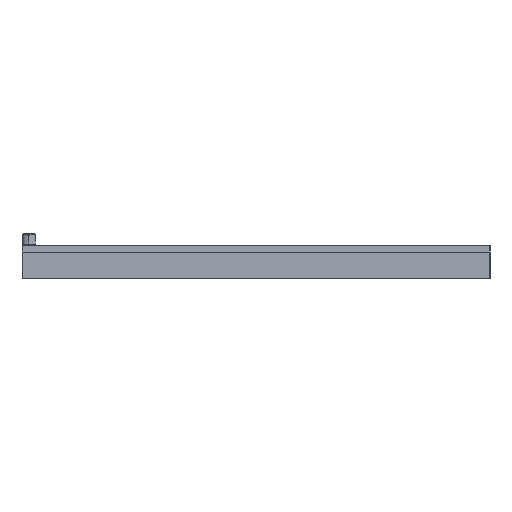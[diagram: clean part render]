
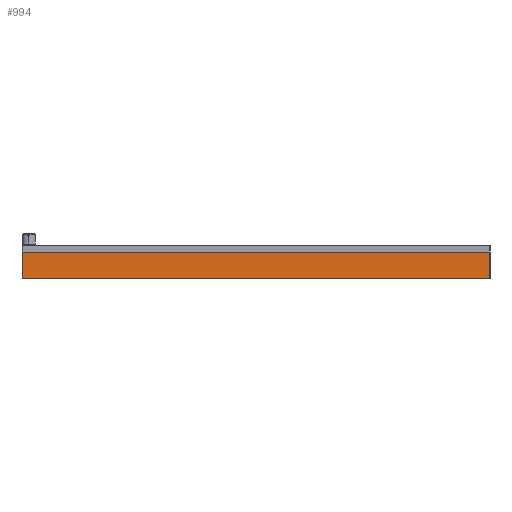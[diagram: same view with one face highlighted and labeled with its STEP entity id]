
A CAD part, left-side view. The second image highlights one B-rep face of the part: STEP entity #994.
In plain terms, the highlighted planar face has unit normal (-1, 0, 0).
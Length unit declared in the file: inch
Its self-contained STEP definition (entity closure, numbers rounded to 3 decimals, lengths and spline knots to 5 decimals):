
#543 = EDGE_CURVE ( 'NONE', #544, #545, #2369, .T. ) ;
#544 = VERTEX_POINT ( 'NONE', #2365 ) ;
#545 = VERTEX_POINT ( 'NONE', #2364 ) ;
#994 = ADVANCED_FACE ( 'NONE', ( #3049 ), #3048, .T. ) ;
#995 = EDGE_LOOP ( 'NONE', ( #996, #997, #1124, #1125 ) ) ;
#996 = ORIENTED_EDGE ( 'NONE', *, *, #998, .T. ) ;
#997 = ORIENTED_EDGE ( 'NONE', *, *, #543, .F. ) ;
#998 = EDGE_CURVE ( 'NONE', #999, #545, #3107, .T. ) ;
#999 = VERTEX_POINT ( 'NONE', #3103 ) ;
#1124 = ORIENTED_EDGE ( 'NONE', *, *, #1139, .F. ) ;
#1125 = ORIENTED_EDGE ( 'NONE', *, *, #1126, .T. ) ;
#1126 = EDGE_CURVE ( 'NONE', #1140, #999, #3308, .T. ) ;
#1139 = EDGE_CURVE ( 'NONE', #1140, #544, #3364, .T. ) ;
#1140 = VERTEX_POINT ( 'NONE', #3360 ) ;
#2364 = CARTESIAN_POINT ( 'NONE',  ( 0., 0., -0.25 ) ) ;
#2365 = CARTESIAN_POINT ( 'NONE',  ( 0., 17.47, -0.25 ) ) ;
#2366 = DIRECTION ( 'NONE',  ( 0., -1., 0. ) ) ;
#2367 = VECTOR ( 'NONE', #2366, 39.37008 ) ;
#2368 = CARTESIAN_POINT ( 'NONE',  ( 0., 17.47, -0.25 ) ) ;
#2369 = LINE ( 'NONE', #2368, #2367 ) ;
#3048 = PLANE ( 'NONE',  #3111 ) ;
#3049 = FACE_OUTER_BOUND ( 'NONE', #995, .T. ) ;
#3103 = CARTESIAN_POINT ( 'NONE',  ( 0., 0., -1.25 ) ) ;
#3104 = DIRECTION ( 'NONE',  ( 0., 0., 1. ) ) ;
#3105 = VECTOR ( 'NONE', #3104, 39.37008 ) ;
#3106 = CARTESIAN_POINT ( 'NONE',  ( 0., 0., -1.25 ) ) ;
#3107 = LINE ( 'NONE', #3106, #3105 ) ;
#3108 = DIRECTION ( 'NONE',  ( 0., 0., 1. ) ) ;
#3109 = DIRECTION ( 'NONE',  ( -1., 0., 0. ) ) ;
#3110 = CARTESIAN_POINT ( 'NONE',  ( 0., 0., -1.25 ) ) ;
#3111 = AXIS2_PLACEMENT_3D ( 'NONE', #3110, #3109, #3108 ) ;
#3305 = DIRECTION ( 'NONE',  ( 0., -1., 0. ) ) ;
#3306 = VECTOR ( 'NONE', #3305, 39.37008 ) ;
#3307 = CARTESIAN_POINT ( 'NONE',  ( 0., 0., -1.25 ) ) ;
#3308 = LINE ( 'NONE', #3307, #3306 ) ;
#3360 = CARTESIAN_POINT ( 'NONE',  ( 0., 17.47, -1.25 ) ) ;
#3361 = DIRECTION ( 'NONE',  ( 0., 0., 1. ) ) ;
#3362 = VECTOR ( 'NONE', #3361, 39.37008 ) ;
#3363 = CARTESIAN_POINT ( 'NONE',  ( 0., 17.47, -1.25 ) ) ;
#3364 = LINE ( 'NONE', #3363, #3362 ) ;
